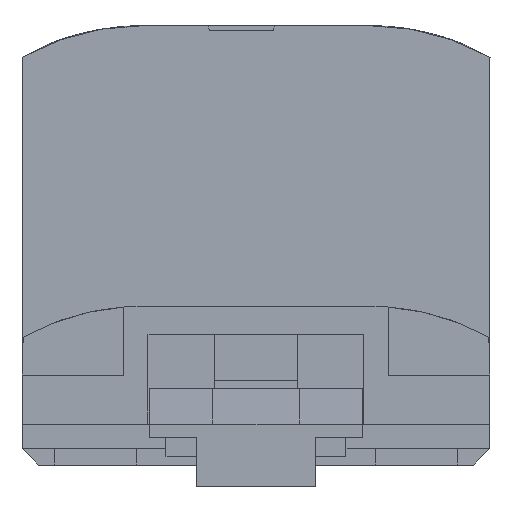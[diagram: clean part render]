
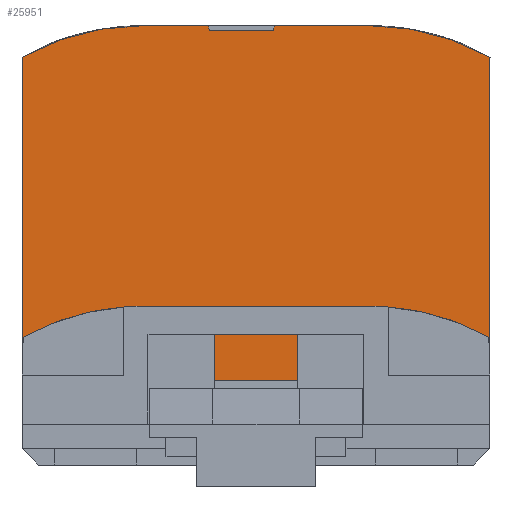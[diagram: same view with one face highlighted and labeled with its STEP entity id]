
A CAD part, front view. The second image highlights one B-rep face of the part: STEP entity #25951.
In plain terms, the highlighted planar face has unit normal (0, -1, 0) as drawn and (1, 0, 0) by its records, which use the part's own axes.
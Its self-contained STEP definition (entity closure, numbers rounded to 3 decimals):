
#578=CIRCLE('',#26661,15.);
#712=CIRCLE('',#27236,15.);
#6277=ORIENTED_EDGE('',*,*,#9096,.F.);
#6278=ORIENTED_EDGE('',*,*,#9101,.T.);
#6279=ORIENTED_EDGE('',*,*,#9102,.F.);
#6280=ORIENTED_EDGE('',*,*,#9106,.T.);
#6281=ORIENTED_EDGE('',*,*,#9086,.T.);
#6282=ORIENTED_EDGE('',*,*,#9084,.T.);
#6283=ORIENTED_EDGE('',*,*,#9079,.F.);
#6284=ORIENTED_EDGE('',*,*,#9069,.T.);
#6285=ORIENTED_EDGE('',*,*,#9071,.F.);
#6286=ORIENTED_EDGE('',*,*,#9076,.F.);
#6287=ORIENTED_EDGE('',*,*,#9077,.F.);
#6288=ORIENTED_EDGE('',*,*,#9066,.F.);
#6289=ORIENTED_EDGE('',*,*,#7894,.T.);
#6290=ORIENTED_EDGE('',*,*,#8431,.T.);
#6291=ORIENTED_EDGE('',*,*,#6828,.F.);
#6292=ORIENTED_EDGE('',*,*,#7215,.F.);
#6293=ORIENTED_EDGE('',*,*,#7218,.F.);
#6294=ORIENTED_EDGE('',*,*,#8429,.F.);
#6295=ORIENTED_EDGE('',*,*,#9060,.T.);
#6296=ORIENTED_EDGE('',*,*,#9062,.F.);
#6297=ORIENTED_EDGE('',*,*,#9092,.F.);
#6298=ORIENTED_EDGE('',*,*,#9093,.F.);
#6828=EDGE_CURVE('',#9450,#9449,#11466,.T.);
#7215=EDGE_CURVE('',#9710,#9450,#11825,.T.);
#7218=EDGE_CURVE('',#9712,#9710,#11828,.T.);
#7894=EDGE_CURVE('',#10160,#10158,#578,.T.);
#8429=EDGE_CURVE('',#10516,#9712,#12775,.T.);
#8431=EDGE_CURVE('',#10158,#9449,#12777,.T.);
#9060=EDGE_CURVE('',#10516,#10933,#712,.T.);
#9062=EDGE_CURVE('',#10934,#10933,#13209,.T.);
#9066=EDGE_CURVE('',#10160,#10936,#13213,.T.);
#9069=EDGE_CURVE('',#10941,#10940,#13216,.T.);
#9071=EDGE_CURVE('',#10942,#10940,#13218,.T.);
#9076=EDGE_CURVE('',#10945,#10942,#13223,.T.);
#9077=EDGE_CURVE('',#10936,#10945,#13224,.T.);
#9079=EDGE_CURVE('',#10941,#10946,#13226,.T.);
#9084=EDGE_CURVE('',#10949,#10946,#13231,.T.);
#9086=EDGE_CURVE('',#10950,#10949,#13233,.T.);
#9092=EDGE_CURVE('',#10954,#10934,#13239,.T.);
#9093=EDGE_CURVE('',#10955,#10954,#13240,.T.);
#9096=EDGE_CURVE('',#10957,#10955,#13243,.T.);
#9101=EDGE_CURVE('',#10957,#10960,#13248,.T.);
#9102=EDGE_CURVE('',#10961,#10960,#13249,.T.);
#9106=EDGE_CURVE('',#10961,#10950,#13253,.T.);
#9449=VERTEX_POINT('',#33185);
#9450=VERTEX_POINT('',#33187);
#9710=VERTEX_POINT('',#33961);
#9712=VERTEX_POINT('',#33967);
#10158=VERTEX_POINT('',#41499);
#10160=VERTEX_POINT('',#41502);
#10516=VERTEX_POINT('',#42659);
#10933=VERTEX_POINT('',#49542);
#10934=VERTEX_POINT('',#49546);
#10936=VERTEX_POINT('',#49552);
#10940=VERTEX_POINT('',#49561);
#10941=VERTEX_POINT('',#49563);
#10942=VERTEX_POINT('',#49567);
#10945=VERTEX_POINT('',#49575);
#10946=VERTEX_POINT('',#49582);
#10949=VERTEX_POINT('',#49592);
#10950=VERTEX_POINT('',#49596);
#10954=VERTEX_POINT('',#49606);
#10955=VERTEX_POINT('',#49610);
#10957=VERTEX_POINT('',#49616);
#10960=VERTEX_POINT('',#49624);
#10961=VERTEX_POINT('',#49628);
#11466=LINE('',#33188,#13757);
#11825=LINE('',#33962,#14116);
#11828=LINE('',#33968,#14119);
#12775=LINE('',#42660,#15066);
#12777=LINE('',#42662,#15068);
#13209=LINE('',#49548,#15500);
#13213=LINE('',#49555,#15504);
#13216=LINE('',#49562,#15507);
#13218=LINE('',#49566,#15509);
#13223=LINE('',#49576,#15514);
#13224=LINE('',#49578,#15515);
#13226=LINE('',#49581,#15517);
#13231=LINE('',#49591,#15522);
#13233=LINE('',#49595,#15524);
#13239=LINE('',#49607,#15530);
#13240=LINE('',#49609,#15531);
#13243=LINE('',#49615,#15534);
#13248=LINE('',#49625,#15539);
#13249=LINE('',#49627,#15540);
#13253=LINE('',#49634,#15544);
#13757=VECTOR('',#28141,1000.);
#14116=VECTOR('',#28810,1000.);
#14119=VECTOR('',#28815,1000.);
#15066=VECTOR('',#30958,1000.);
#15068=VECTOR('',#30960,1000.);
#15500=VECTOR('',#32054,1000.);
#15504=VECTOR('',#32060,1000.);
#15507=VECTOR('',#32065,1000.);
#15509=VECTOR('',#32069,1000.);
#15514=VECTOR('',#32076,1000.);
#15515=VECTOR('',#32079,1000.);
#15517=VECTOR('',#32083,1000.);
#15522=VECTOR('',#32092,1000.);
#15524=VECTOR('',#32096,1000.);
#15530=VECTOR('',#32104,1000.);
#15531=VECTOR('',#32107,1000.);
#15534=VECTOR('',#32112,1000.);
#15539=VECTOR('',#32119,1000.);
#15540=VECTOR('',#32122,1000.);
#15544=VECTOR('',#32128,1000.);
#16517=EDGE_LOOP('',(#6277,#6278,#6279,#6280,#6281,#6282,#6283,#6284,#6285,
#6286,#6287,#6288,#6289,#6290,#6291,#6292,#6293,#6294,#6295,#6296,#6297,
#6298));
#17491=FACE_BOUND('',#16517,.T.);
#18274=PLANE('',#27255);
#25951=ADVANCED_FACE('',(#17491),#18274,.T.);
#26661=AXIS2_PLACEMENT_3D('',#41501,#29990,#29991);
#27236=AXIS2_PLACEMENT_3D('',#49543,#32049,#32050);
#27255=AXIS2_PLACEMENT_3D('',#49637,#32133,#32134);
#28141=DIRECTION('',(0.,0.225,0.974));
#28810=DIRECTION('',(0.,1.,0.));
#28815=DIRECTION('',(0.,0.225,-0.974));
#29990=DIRECTION('',(1.,0.,0.));
#29991=DIRECTION('',(0.,0.,1.));
#30958=DIRECTION('',(0.,1.,0.));
#30960=DIRECTION('',(0.,-1.,0.));
#32049=DIRECTION('',(1.,0.,0.));
#32050=DIRECTION('',(0.,0.,1.));
#32054=DIRECTION('',(0.,0.,1.));
#32060=DIRECTION('',(0.,0.,-1.));
#32065=DIRECTION('',(0.,0.,1.));
#32069=DIRECTION('',(0.,-1.,0.));
#32076=DIRECTION('',(0.,0.,1.));
#32079=DIRECTION('',(0.,-1.,0.));
#32083=DIRECTION('',(0.,1.,0.));
#32092=DIRECTION('',(0.,0.,1.));
#32096=DIRECTION('',(0.,1.,0.));
#32104=DIRECTION('',(0.,-1.,0.));
#32107=DIRECTION('',(0.,0.,-1.));
#32112=DIRECTION('',(0.,-1.,0.));
#32119=DIRECTION('',(0.,0.,-1.));
#32122=DIRECTION('',(0.,1.,0.));
#32128=DIRECTION('',(0.,0.,-1.));
#32133=DIRECTION('',(1.,0.,0.));
#32134=DIRECTION('',(0.,-1.,0.));
#33185=CARTESIAN_POINT('',(56.45,15.419,21.7));
#33187=CARTESIAN_POINT('',(56.45,15.35,21.4));
#33188=CARTESIAN_POINT('',(56.45,7.096,-14.353));
#33961=CARTESIAN_POINT('',(56.45,11.45,21.4));
#33962=CARTESIAN_POINT('',(56.45,35.2,21.4));
#33967=CARTESIAN_POINT('',(56.45,11.381,21.7));
#33968=CARTESIAN_POINT('',(56.45,19.704,-14.353));
#41499=CARTESIAN_POINT('',(56.45,21.25,21.7));
#41501=CARTESIAN_POINT('',(56.45,21.25,6.7));
#41502=CARTESIAN_POINT('',(56.45,28.6,19.776));
#42659=CARTESIAN_POINT('',(56.45,7.35,21.7));
#42660=CARTESIAN_POINT('',(56.45,35.2,21.7));
#42662=CARTESIAN_POINT('',(56.45,35.2,21.7));
#49542=CARTESIAN_POINT('',(56.45,0.,19.776));
#49543=CARTESIAN_POINT('',(56.45,7.35,6.7));
#49546=CARTESIAN_POINT('',(56.45,0.,0.55));
#49548=CARTESIAN_POINT('',(56.45,0.,44.45));
#49552=CARTESIAN_POINT('',(56.45,28.6,0.55));
#49555=CARTESIAN_POINT('',(56.45,28.6,44.45));
#49561=CARTESIAN_POINT('',(56.45,25.2,2.1));
#49562=CARTESIAN_POINT('',(56.45,25.2,-12.108));
#49563=CARTESIAN_POINT('',(56.45,25.2,1.));
#49566=CARTESIAN_POINT('',(56.45,12.182,2.1));
#49567=CARTESIAN_POINT('',(56.45,27.8,2.1));
#49575=CARTESIAN_POINT('',(56.45,27.8,0.55));
#49576=CARTESIAN_POINT('',(56.45,27.8,44.45));
#49578=CARTESIAN_POINT('',(56.45,12.182,0.55));
#49581=CARTESIAN_POINT('',(56.45,19.45,1.));
#49582=CARTESIAN_POINT('',(56.45,26.5,1.));
#49591=CARTESIAN_POINT('',(56.45,26.5,-12.267));
#49592=CARTESIAN_POINT('',(56.45,26.5,0.));
#49595=CARTESIAN_POINT('',(56.45,-7.42,0.));
#49596=CARTESIAN_POINT('',(56.45,2.1,0.));
#49606=CARTESIAN_POINT('',(56.45,0.8,0.55));
#49607=CARTESIAN_POINT('',(56.45,12.182,0.55));
#49609=CARTESIAN_POINT('',(56.45,0.8,44.45));
#49610=CARTESIAN_POINT('',(56.45,0.8,2.1));
#49615=CARTESIAN_POINT('',(56.45,12.182,2.1));
#49616=CARTESIAN_POINT('',(56.45,3.4,2.1));
#49624=CARTESIAN_POINT('',(56.45,3.4,1.));
#49625=CARTESIAN_POINT('',(56.45,3.4,-9.431));
#49627=CARTESIAN_POINT('',(56.45,19.45,1.));
#49628=CARTESIAN_POINT('',(56.45,2.1,1.));
#49634=CARTESIAN_POINT('',(56.45,2.1,-9.271));
#49637=CARTESIAN_POINT('',(56.45,19.45,21.6));
